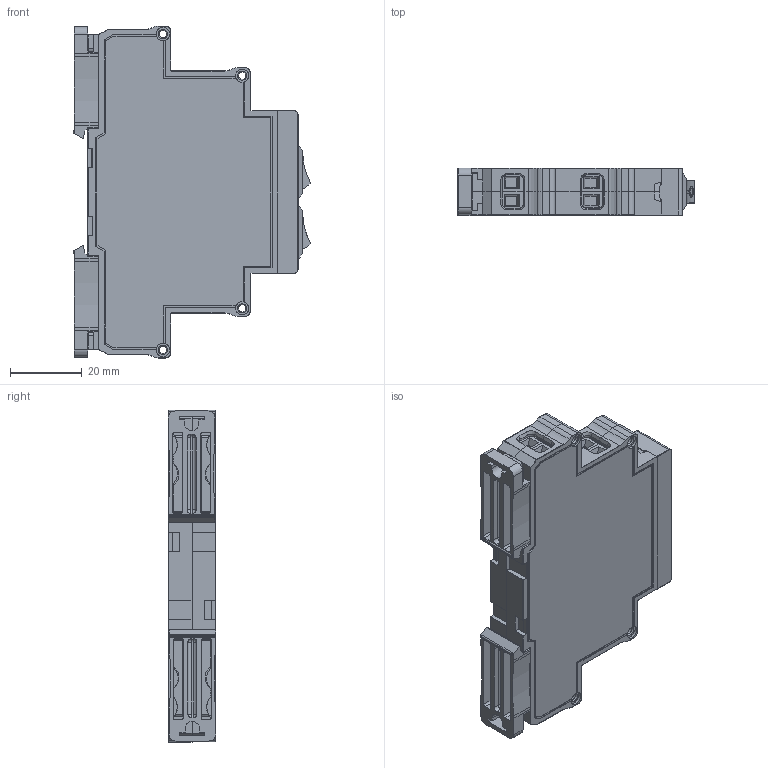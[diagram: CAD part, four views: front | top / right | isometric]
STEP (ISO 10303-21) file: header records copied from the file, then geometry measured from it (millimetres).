
FILE_DESCRIPTION(('STEP AP242'), '1');
FILE_NAME('ﾑ碚濱ﾏﾊﾌ-2', '', ('UNSPECIFIED'), ('UNSPECIFIED'), 'C3D Converter', 'C3D Toolkit', '');
FILE_SCHEMA(('AP242_MANAGED_MODEL_BASED_3D_ENGINEERING_MIM_LF { 1 0 10303 442 1 1 4 }'));
Length unit declared in the file: millimetre
Products named in the file (14): Case_UC1-2sR-2024_SimpleModel_6mm; Case13-18-23mm_2step_Lock_v01a_Build20140909_1552; Case_UC1-2sR-2025_Face_13mm; FDB4302D-95A0-4C39-9449-F4B4CCE469AD
Assembly tree (20 placements, depth 3):
  (unnamed)
    Case_UC1-2sR-2024_SimpleModel_6mm  x2
    Case13-18-23mm_2step_Lock_v01a_Build20140909_1552  x2
    Case_UC1-2sR-2025_Face_13mm
    (unnamed)  x4
      (unnamed)
    FDB4302D-95A0-4C39-9449-F4B4CCE469AD  x2
    (unnamed)
    (unnamed)
    (unnamed)
    (unnamed)
    (unnamed)
    (unnamed)
    (unnamed)
Bounding box: 66.03 x 13.2 x 92.4 mm (x, y, z)
Volume: 24272.8 mm3; surface area: 37558.6 mm2
Topology: 53 solids, 53 shells, 3260 faces, 8896 edges, 5756 vertices
Faces by surface type: plane 2201, extrusion 449, cylinder 398, torus 96, bspline 44, cone 40, sphere 32
Full cylindrical faces by diameter (mm): 1.238 x8, 1.8 x4, 2 x4, 2.1 x8, 3.7 x8, 3.9 x8
Entity records: 85477 total; most frequent: CARTESIAN_POINT 17145, ORIENTED_EDGE 11348, DIRECTION 8763, EDGE_CURVE 5674, VECTOR 4649, LINE 4200, VERTEX_POINT 3724, EDGE_LOOP 2134
